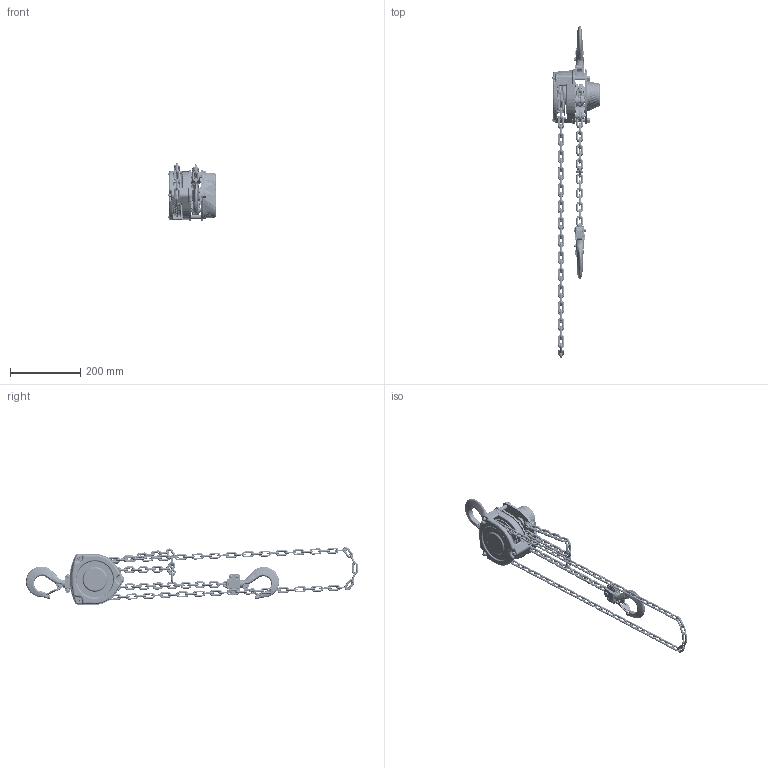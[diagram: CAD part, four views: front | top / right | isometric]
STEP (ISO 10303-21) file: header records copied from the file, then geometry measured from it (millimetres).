
FILE_DESCRIPTION (( 'STEP AP214' ), '1' );
FILE_NAME ('611軞蚾饜.STEP', '2023-02-15T05:58:33', ( '' ), ( '' ), 'SwSTEP 2.0', 'SolidWorks 2018', '' );
FILE_SCHEMA (( 'AUTOMOTIVE_DESIGN' ));
Length unit declared in the file: millimetre
Products named in the file (44): KII型0.5T右墙板; れ笭蟈謫; 盓裝; 双圈弹簧; 煦蟈啣; 奻像粣(蜊輛ㄘ; 忒蟈謫; 絳謫; 忒謫欶1; え喘謫; 狟像殤え; 裂像; M4囀鞠褒蹟隊; 帣遠种; KIIﾐﾍ0.5Tｳﾝﾕﾖ; 622A倰0.5T憔蛈; 藻笠え; 豪謂喘; 0.5T憔蛈种; 1T翉婖縐坰啣; KII型0.5T长轴; M10羲羞蹟譫; 忒蟈沭; 苤粣創; 穩隊 - 萵掛; れ笭蟈沭; 憔謫; M4攝韓滅侂蹟譫; 翉婖帣遠殤; M8; 穩隊; 霧齪; 622A倰1T憔蛈粟銅; 裂种; KII型0.5T左墙板; M6; 淕极粣創; 611軞蚾饜; 傻粣; 憔謫欶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
Assembly tree (72 placements, depth 2):
  611軞蚾饜
    KII型0.5T左墙板
    盓裝  x3
    詩杶  x4
    KII型0.5T右墙板
    KII型0.5T长轴
    絳謫  x2
    煦蟈啣
    豪謂喘
    憔謫
    憔謫欶
    奻像粣(蜊輛ㄘ
    忒謫欶1
    帣遠种
    苤粣創
    淕极粣創  x2
    秶雄ん釱
    翉婖帣遠殤
    れ笭蟈謫
    藻笠え  x2
    忒蟈謫
    0.5T憔蛈种  x2
    622A倰0.5T憔蛈  x2
    622A倰1T憔蛈粟銅  x2
    傻粣  x2
    え喘謫  x2
    KIIﾐﾍ0.5Tｳﾝﾕﾖ
    M10羲羞蹟譫
    M8  x3
    M6  x3
    1T翉婖縐坰啣  x2
    M4囀鞠褒蹟隊  x2
    M4攝韓滅侂蹟譫  x2
    奻像殤  x2
    裂像  x2
    穩隊  x2
    霧齪
    れ笭蟈沭
    狟像殤え  x2
    穩隊 - 萵掛  x4
    M6攝韓滅侂蹟譫  x2
    裂种
    双圈弹簧  x2
    忒蟈沭
Bounding box: 136.5 x 945.58 x 164.46 mm (x, y, z)
Volume: 1030602.8 mm3; surface area: 639775.8 mm2
Topology: 191 solids, 191 shells, 7463 faces, 19297 edges, 12055 vertices
Faces by surface type: plane 2431, cylinder 2430, torus 1321, bspline 779, cone 446, sphere 56
Entity records: 228452 total; most frequent: CARTESIAN_POINT 95126, ORIENTED_EDGE 27902, DIRECTION 27202, EDGE_CURVE 13951, AXIS2_PLACEMENT_3D 10746, VERTEX_POINT 8637, CIRCLE 5804, LINE 5710
